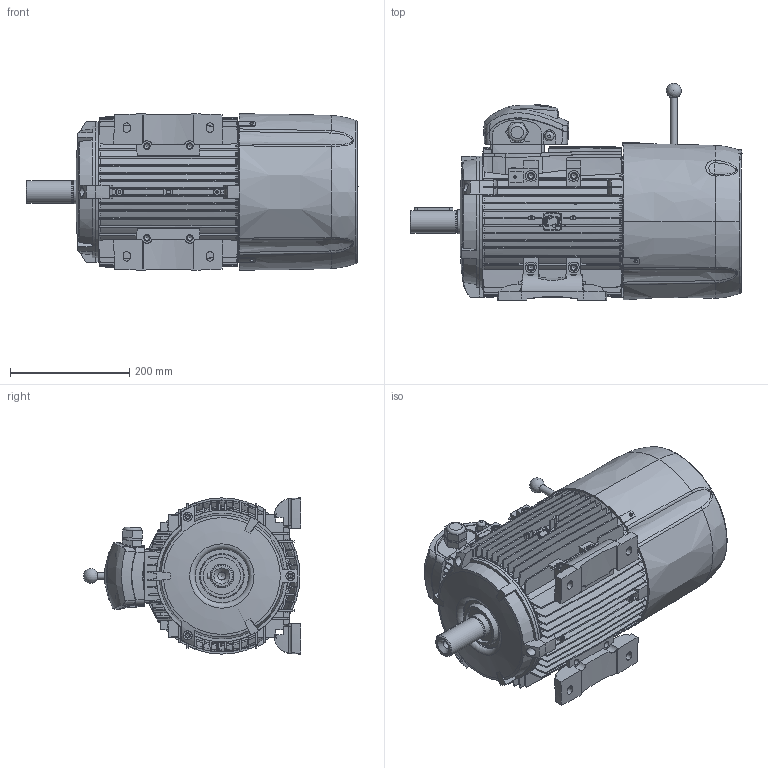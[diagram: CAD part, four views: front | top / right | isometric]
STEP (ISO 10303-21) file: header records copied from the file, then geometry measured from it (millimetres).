
FILE_DESCRIPTION((''),'2;1');
FILE_NAME('D:\htdocs\motive\source_step\M132S.stp','2014-09-10T11:27:22',('ing.Casini'),(''),'Autodesk Inventor 2010','Autodesk Inventor 2010','');
FILE_SCHEMA(('AUTOMOTIVE_DESIGN { 1 0 10303 214 1 1 1 1 }'));
Length unit declared in the file: millimetre
Products named in the file (7): M132S Lighter motor Assly_04.09; BODY132S; B3132; SH132S_4-248-M; FEET132S_1; TBOXATDC132; FCVATDC132
Assembly tree (7 placements, depth 2):
  M132S Lighter motor Assly_04.09
    BODY132S
    B3132
    SH132S_4-248-M
    FEET132S_1  x2
    TBOXATDC132
    FCVATDC132
Bounding box: 557.4 x 364.39 x 262.2 mm (x, y, z)
Volume: 3500677.6 mm3; surface area: 1568646.1 mm2
Topology: 9 solids, 9 shells, 2469 faces, 6929 edges, 4608 vertices
Faces by surface type: plane 913, bspline 716, cylinder 403, cone 280, torus 156, sphere 1
Full cylindrical faces by diameter (mm): 2.5 x4, 4.2 x13, 5.556 x1, 5.6 x2, 6 x6, 6.8 x7, 8.5 x12, 9 x3, 11 x4, 12 x14, 13 x4, 13.5 x1, 15 x3, 17 x4, 32 x2, 37.4 x1, 38 x1, 40 x2, 62 x1, 70 x1, 80 x2, 83.5 x1, 210 x1, 211 x3
Entity records: 130969 total; most frequent: CARTESIAN_POINT 75402, ORIENTED_EDGE 13072, DIRECTION 9088, EDGE_CURVE 6536, VERTEX_POINT 4430, AXIS2_PLACEMENT_3D 3386, EDGE_LOOP 2706, B_SPLINE_CURVE_WITH_KNOTS 2457
